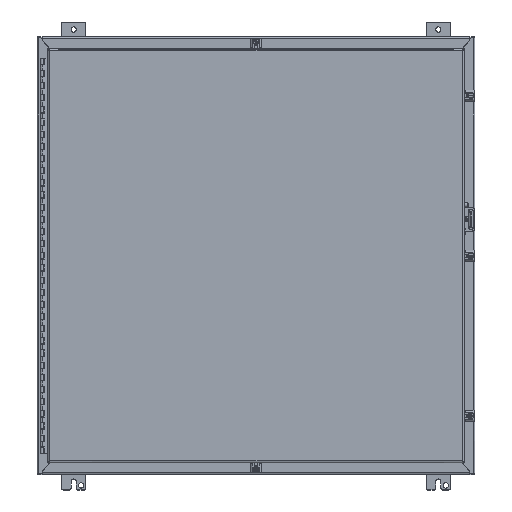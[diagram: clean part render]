
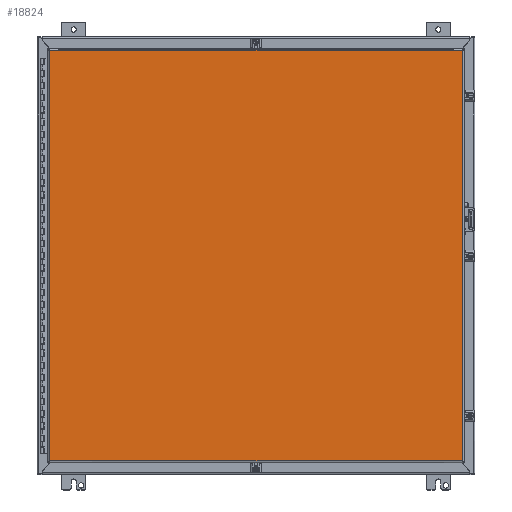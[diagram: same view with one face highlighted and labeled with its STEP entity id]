
A CAD part, top view. The second image highlights one B-rep face of the part: STEP entity #18824.
In plain terms, the highlighted planar face has unit normal (0, 0, 1) as drawn and (0, 1, 0) by its records, which use the part's own axes.
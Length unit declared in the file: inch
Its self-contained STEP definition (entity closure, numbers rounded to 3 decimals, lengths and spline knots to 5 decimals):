
#16835=DIRECTION('',(0.,0.,1.));
#16836=VECTOR('',#16835,33.96);
#16837=CARTESIAN_POINT('',(-16.88638,0.,0.145));
#16838=LINE('',#16837,#16836);
#16885=DIRECTION('',(0.,0.,1.));
#16886=VECTOR('',#16885,33.96);
#16887=CARTESIAN_POINT('',(16.88638,0.,0.145));
#16888=LINE('',#16887,#16886);
#16987=DIRECTION('',(-1.,0.,0.));
#16988=VECTOR('',#16987,33.77275);
#16989=CARTESIAN_POINT('',(16.88638,0.,0.145));
#16990=LINE('',#16989,#16988);
#17831=DIRECTION('',(-1.,0.,0.));
#17832=VECTOR('',#17831,33.77275);
#17833=CARTESIAN_POINT('',(16.88638,0.,34.105));
#17834=LINE('',#17833,#17832);
#18115=CARTESIAN_POINT('',(16.88638,0.,0.145));
#18116=CARTESIAN_POINT('',(-16.88638,0.,0.145));
#18117=VERTEX_POINT('',#18115);
#18118=VERTEX_POINT('',#18116);
#18119=CARTESIAN_POINT('',(16.88638,0.,34.105));
#18120=CARTESIAN_POINT('',(-16.88638,0.,34.105));
#18121=VERTEX_POINT('',#18119);
#18122=VERTEX_POINT('',#18120);
#18810=CARTESIAN_POINT('',(17.03138,0.,0.));
#18811=DIRECTION('',(0.,1.,0.));
#18812=DIRECTION('',(-1.,0.,0.));
#18813=AXIS2_PLACEMENT_3D('',#18810,#18811,#18812);
#18814=PLANE('',#18813);
#18816=ORIENTED_EDGE('',*,*,#18815,.T.);
#18818=ORIENTED_EDGE('',*,*,#18817,.T.);
#18819=ORIENTED_EDGE('',*,*,#18800,.F.);
#18821=ORIENTED_EDGE('',*,*,#18820,.F.);
#18822=EDGE_LOOP('',(#18816,#18818,#18819,#18821));
#18823=FACE_OUTER_BOUND('',#18822,.F.);
#18800=EDGE_CURVE('',#18118,#18122,#16838,.T.);
#18815=EDGE_CURVE('',#18117,#18121,#16888,.T.);
#18817=EDGE_CURVE('',#18121,#18122,#17834,.T.);
#18820=EDGE_CURVE('',#18117,#18118,#16990,.T.);
#18824=ADVANCED_FACE('',(#18823),#18814,.T.);
